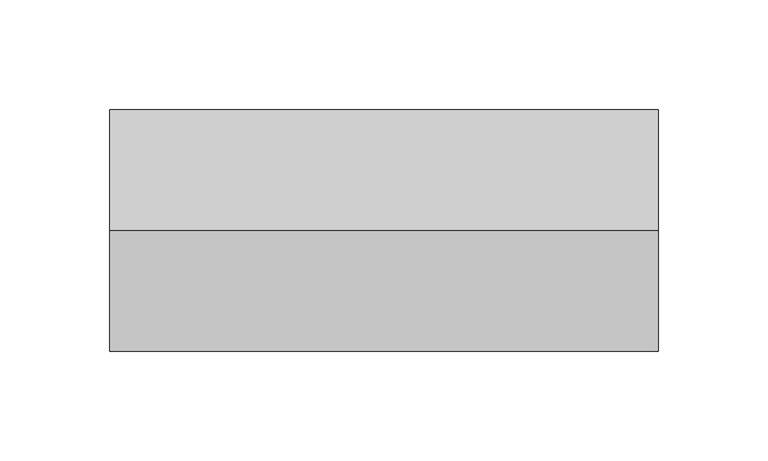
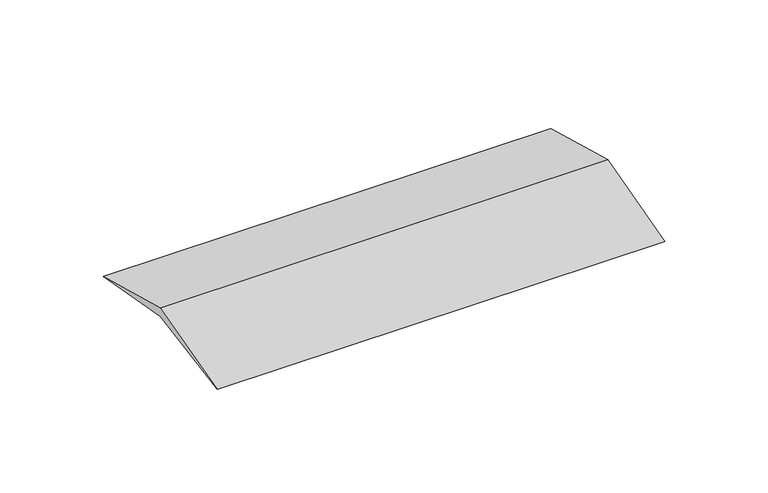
"""IFC4 building model written with IfcOpenShell, lengths in millimetres: cable carrier fitting geometry, КНС_НакладкаНаСтыкФронтальныхКрышекКоробов_ILF_DKC : Накладка на стык фронтальных крышек коробов."""

from ifc_helpers import new_model, si_unit, frame, origin, place, context, project, spatial, polyline, outline, extrude, source, transform, mapped, element, save


def cable_carrier_fitting_7589559d(model_context):
    return source(origin(), model_context, "Body", "SweptSolid", [
        extrude(outline(polyline([(0.0, 35.0), (-55.0, 25.0), (0.0, 40.0), (55.0, 25.0), (0.0, 35.0)])), frame((-125.0, 0.0, 0.0), z_axis=(1.0, 0.0, 0.0), x_axis=(0.0, 1.0, 0.0)), (0.0, 0.0, 1.0), 250.0),
    ])


if __name__ == "__main__":
    model = new_model("IFC4")
    model_context = context("Model", 3, world=origin())
    ifc_project = project(units=[si_unit("LENGTHUNIT", "METRE", prefix="MILLI")], contexts=[model_context])
    site = spatial("IfcSite", under=ifc_project)
    building = spatial("IfcBuilding", under=site)
    placement = place(None, origin())
    cable_carrier_fitting_shape = cable_carrier_fitting_7589559d(model_context)
    element("IfcCableCarrierFitting", 1, ObjectType="КНС_НакладкаНаСтыкФронтальныхКрышекКоробов_ILF_DKC : Накладка на стык фронтальных крышек коробов", at=placement, inside=building, context=model_context, shape_type="MappedRepresentation", body=[
        mapped(cable_carrier_fitting_shape, transform((0.0, 0.0, 0.0), x_axis=(1.0, 0.0, 0.0), y_axis=(0.0, 1.0, 0.0), z_axis=(0.0, 0.0, 1.0))),
    ])
    save(model, "model.ifc")
